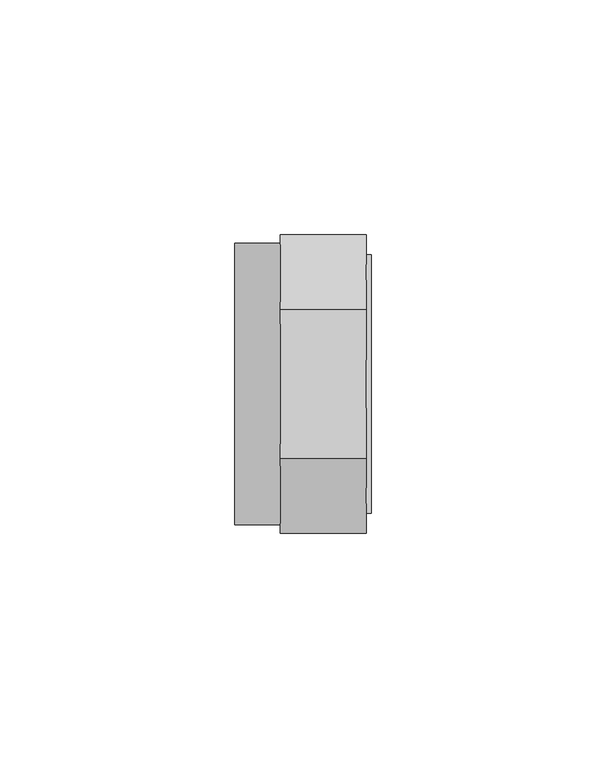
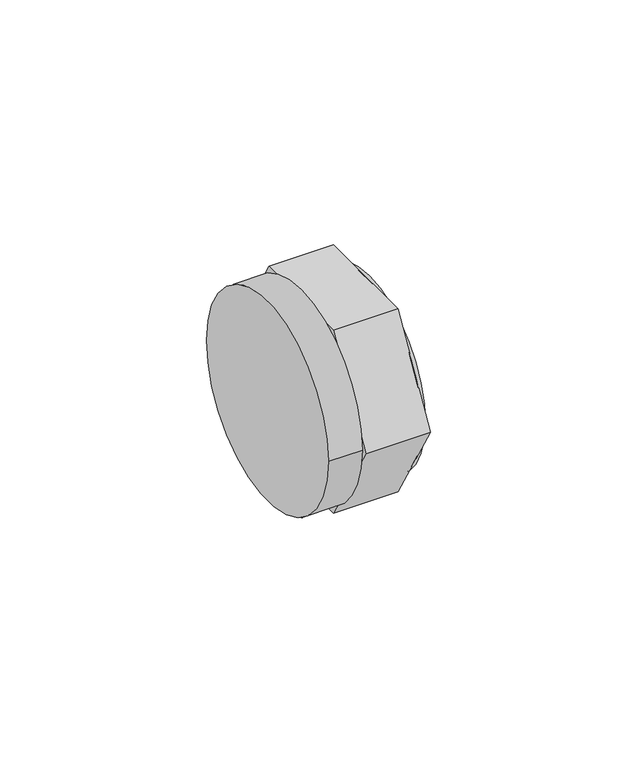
"""IFC4 building model written with IfcOpenShell, lengths in millimetres: pipe fitting geometry, 01011012 : Tapones H."""

from ifc_helpers import new_model, si_unit, point, frame, origin, origin_2d, place, context, project, spatial, polyline, circle_curve, trimmed, segment, composite_curve, outline, extrude, source, transform, mapped, element, save


def pipe_fitting_b60a6bfc(model_context):
    return source(origin(), model_context, "Body", "SweptSolid", [
        extrude(outline(composite_curve([segment(trimmed(circle_curve(origin_2d(), 27.5), [point((-27.5, 0.0))], [point((27.5, 0.0))], False, "CARTESIAN"), True, "CONTINUOUS"), segment(trimmed(circle_curve(origin_2d(), 27.5), [point((27.5, 0.0))], [point((-27.5, 0.0))], False, "CARTESIAN"), True, "CONTINUOUS")], self_intersect=False)), frame((28.0, 0.0, 0.0), z_axis=(1.0, 0.0, 0.0), x_axis=(0.0, 1.0, 0.0)), (0.0, 0.0, 1.0), 1.0),
        extrude(outline(composite_curve([segment(trimmed(circle_curve(origin_2d(), 30.0), [point((-30.0, 0.0))], [point((30.0, 0.0))], False, "CARTESIAN"), True, "CONTINUOUS"), segment(trimmed(circle_curve(origin_2d(), 30.0), [point((30.0, 0.0))], [point((-30.0, 0.0))], False, "CARTESIAN"), True, "CONTINUOUS")], self_intersect=False)), frame((0.0, 0.0, 0.0), z_axis=(1.0, 0.0, 0.0), x_axis=(0.0, 1.0, 0.0)), (0.0, 0.0, 1.0), 9.6666667),
        extrude(outline(polyline([(-15.8771324, 27.5), (15.8771324, 27.5), (31.7542648, 0.0), (15.8771324, -27.5), (-15.8771324, -27.5), (-31.7542648, 0.0), (-15.8771324, 27.5)])), frame((9.6666667, 0.0, 0.0), z_axis=(1.0, 0.0, 0.0), x_axis=(0.0, 1.0, 0.0)), (0.0, 0.0, 1.0), 18.3333333),
    ])


if __name__ == "__main__":
    model = new_model("IFC4")
    model_context = context("Model", 3, world=origin())
    ifc_project = project(units=[si_unit("LENGTHUNIT", "METRE", prefix="MILLI")], contexts=[model_context])
    site = spatial("IfcSite", under=ifc_project)
    building = spatial("IfcBuilding", under=site)
    placement = place(None, origin())
    pipe_fitting_shape = pipe_fitting_b60a6bfc(model_context)
    element("IfcPipeFitting", 1, ObjectType="01011012 : Tapones H", at=placement, inside=building, context=model_context, shape_type="MappedRepresentation", body=[
        mapped(pipe_fitting_shape, transform((0.0, 0.0, 0.0), x_axis=(1.0, 0.0, 0.0), y_axis=(0.0, 1.0, 0.0), z_axis=(0.0, 0.0, 1.0))),
    ])
    save(model, "model.ifc")
